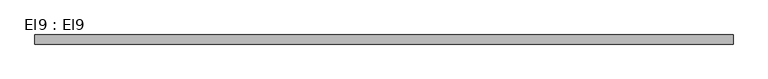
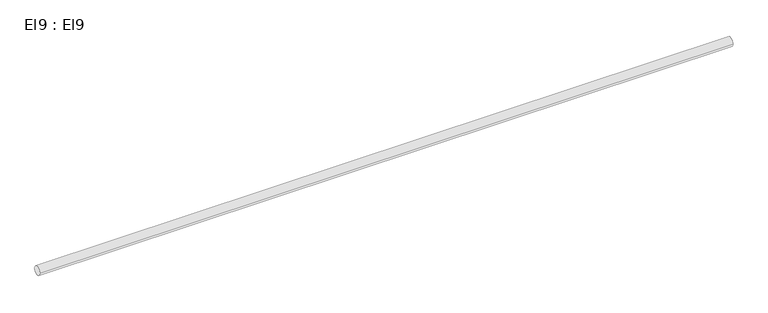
"""IFC4 building model written with IfcOpenShell, lengths in millimetres: cable carrier segment geometry, El9 : El9."""

from ifc_helpers import new_model, si_unit, point, frame, frame_2d, origin, place, context, project, spatial, circle_curve, trimmed, segment, composite_curve, outline, extrude, source, transform, mapped, element, save


def el9_el9_d56e1be6(model_context):
    return source(origin(), model_context, "Body", "SweptSolid", [
        extrude(outline(composite_curve([segment(trimmed(circle_curve(frame_2d((9824.6, 2950.0)), 9.5), [point((9815.1, 2950.0))], [point((9834.1, 2950.0))], False, "CARTESIAN"), True, "CONTINUOUS"), segment(trimmed(circle_curve(frame_2d((9824.6, 2950.0)), 9.5), [point((9834.1, 2950.0))], [point((9815.1, 2950.0))], False, "CARTESIAN"), True, "CONTINUOUS")], self_intersect=False)), frame((4275.8, 0.0, 0.0), z_axis=(1.0, 0.0, 0.0), x_axis=(0.0, 1.0, 0.0)), (0.0, 0.0, 1.0), 1450.0),
    ])


if __name__ == "__main__":
    model = new_model("IFC4")
    model_context = context("Model", 3, world=origin())
    ifc_project = project(units=[si_unit("LENGTHUNIT", "METRE", prefix="MILLI")], contexts=[model_context])
    site = spatial("IfcSite", under=ifc_project)
    building = spatial("IfcBuilding", under=site)
    placement = place(None, origin())
    el9_el9_shape = el9_el9_d56e1be6(model_context)
    element("IfcCableCarrierSegment", 1, ObjectType="El9 : El9", at=placement, inside=building, context=model_context, shape_type="MappedRepresentation", body=[
        mapped(el9_el9_shape, transform((0.0, 0.0, 0.0), x_axis=(1.0, 0.0, 0.0), y_axis=(0.0, 1.0, 0.0), z_axis=(0.0, 0.0, 1.0))),
    ])
    save(model, "model.ifc")
